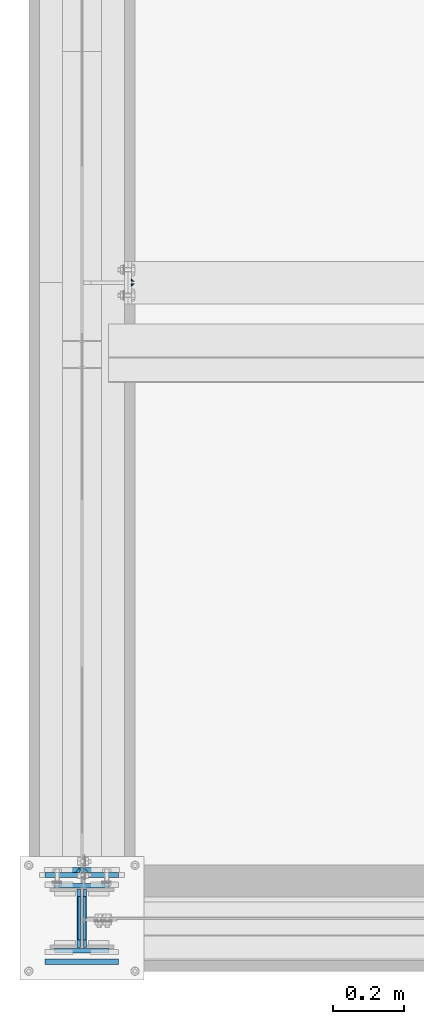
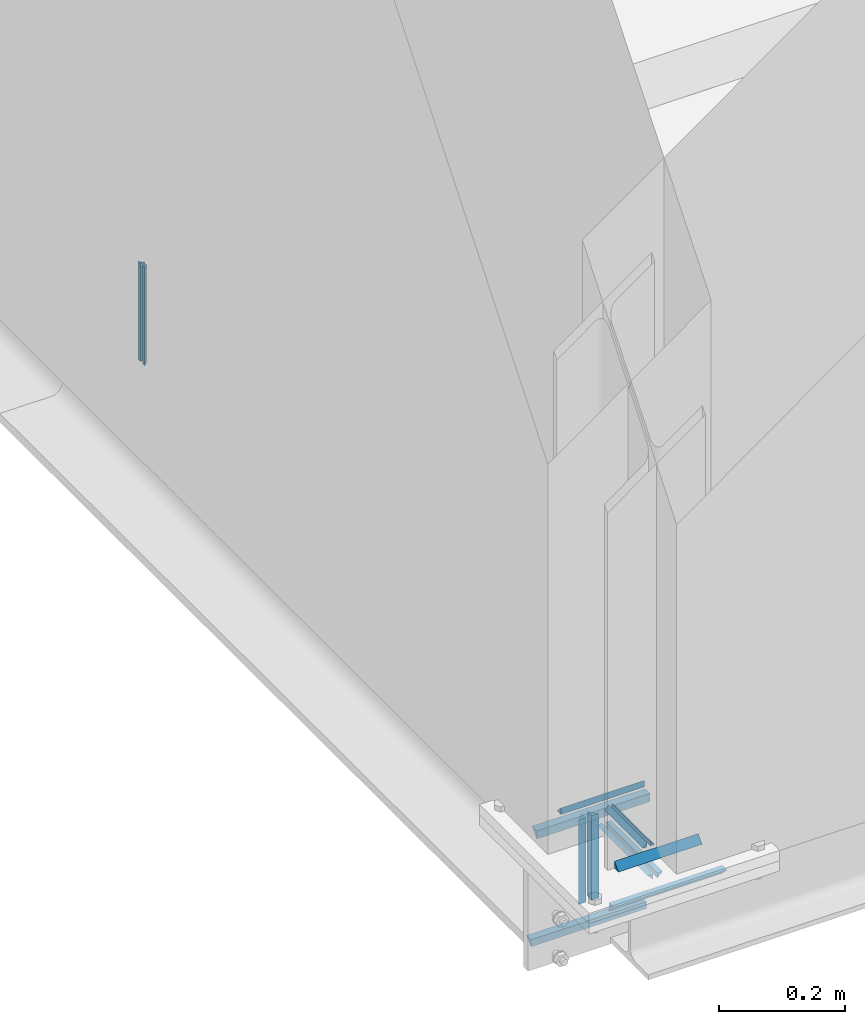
# One storey, part 8 of 66: 21 fasteners.
"""IFC4 building model written with IfcOpenShell, lengths in metres."""

from ifc_helpers import new_model, si_unit, frame, origin_with_axes, place, context, project, spatial, polyline, outline, extrude, type_object, element, save


model = new_model("IFC4")

# Units and contexts
model_context = context("Model", 3, precision=1e-05, world=origin_with_axes())
ifc_project = project(units=[si_unit("LENGTHUNIT", "METRE"), si_unit("AREAUNIT", "SQUARE_METRE"), si_unit("VOLUMEUNIT", "CUBIC_METRE"), si_unit("MASSUNIT", "GRAM", prefix="KILO"), si_unit("TIMEUNIT", "SECOND"), si_unit("PLANEANGLEUNIT", "RADIAN"), si_unit("SOLIDANGLEUNIT", "STERADIAN"), si_unit("THERMODYNAMICTEMPERATUREUNIT", "DEGREE_CELSIUS")], contexts=[model_context])

# Site, building, storey
placement_1 = place(None, origin_with_axes())
site = spatial("IfcSite", under=ifc_project, at=placement_1, Name="Italia", CompositionType="ELEMENT")
building = spatial("IfcBuilding", under=site, at=placement_1, Name="Uffici", CompositionType="ELEMENT")
storey_placement = place(None, frame((0.0, 0.0, 3.299999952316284), z_axis=(0.0, 0.0, 1.0), x_axis=(1.0, 0.0, 0.0)))
storey = spatial("IfcBuildingStorey", under=building, at=storey_placement, Name="Storey 1", CompositionType="ELEMENT", Elevation=3.299999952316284)

# Fasteners
fastener_type_1 = type_object("IfcFastenerType", Name="Collegamento -001_-002", PredefinedType="WELD")
placement_2 = place(placement_1, origin_with_axes())
fastener_1_placement = place(placement_2, origin_with_axes())
element("IfcFastener", 1, at=fastener_1_placement, inside=storey, type_object=fastener_type_1, Name="Collegamento -001_-002", context=model_context, shape_type="SweptSolid", body=[
    extrude(outline(polyline([(0.0, 0.0), (0.00792813, 0.00817336), (0.00792813, 0.0), (0.0, 0.0)])), frame((0.13995, 1.78569, 3.27525), z_axis=(0.0, 0.0, -1.0), x_axis=(0.0, 1.0, 0.0)), (0.0, 0.0, 1.0), 0.1905),
])
fastener_type_2 = type_object("IfcFastenerType", Name="Collegamento -001_-002", PredefinedType="WELD")
fastener_2_placement = place(placement_2, origin_with_axes())
element("IfcFastener", 2, at=fastener_2_placement, inside=storey, type_object=fastener_type_2, Name="Collegamento -001_-002", context=model_context, shape_type="SweptSolid", body=[
    extrude(outline(polyline([(0.0, 0.0), (-0.00792813, -0.00817336), (-0.00792813, 0.0), (0.0, 0.0)])), frame((0.13995, 1.80764, 3.08475), z_axis=(0.0, 0.0, 1.0), x_axis=(0.0, 1.0, 0.0)), (0.0, 0.0, 1.0), 0.1905),
])
fastener_type_3 = type_object("IfcFastenerType", Name="Collegamento -001_-002", PredefinedType="WELD")
fastener_3_placement = place(placement_2, origin_with_axes())
element("IfcFastener", 3, at=fastener_3_placement, inside=storey, type_object=fastener_type_3, Name="Collegamento -001_-002", context=model_context, shape_type="SweptSolid", body=[
    extrude(outline(polyline([(0.0, 0.0), (0.00792813, 0.00817336), (0.00792813, 0.0), (0.0, 0.0)])), frame((0.13995, 1.78569, 3.27525), z_axis=(0.0, 0.0, -1.0), x_axis=(0.0, 1.0, 0.0)), (0.0, 0.0, 1.0), 0.1905),
])
fastener_type_4 = type_object("IfcFastenerType", Name="Collegamento -001_-002", PredefinedType="WELD")
fastener_4_placement = place(placement_2, origin_with_axes())
element("IfcFastener", 4, at=fastener_4_placement, inside=storey, type_object=fastener_type_4, Name="Collegamento -001_-002", context=model_context, shape_type="SweptSolid", body=[
    extrude(outline(polyline([(0.0, 0.0), (-0.00792813, -0.00817336), (-0.00792813, 0.0), (0.0, 0.0)])), frame((0.13995, 1.80764, 3.08475), z_axis=(0.0, 0.0, 1.0), x_axis=(0.0, 1.0, 0.0)), (0.0, 0.0, 1.0), 0.1905),
])
fastener_type_5 = type_object("IfcFastenerType", Name="Collegamenti 0101_-001 0102_-002 0103_-003 0104_-004", PredefinedType="WELD")
fastener_5_placement = place(placement_2, origin_with_axes())
element("IfcFastener", 5, at=fastener_5_placement, inside=storey, type_object=fastener_type_5, Name="Collegamenti 0101_-001 0102_-002 0103_-003 0104_-004", context=model_context, shape_type="SweptSolid", body=[
    extrude(outline(polyline([(0.0, 0.0), (0.0141734, -0.0137482), (0.0, -0.0137482), (0.0, 0.0)])), frame((-0.0186982, 0.12995, 3.09795), z_axis=(0.0, 0.0, 1.0), x_axis=(0.0, 1.0, 0.0)), (0.0, 0.0, 1.0), 0.1641),
])
fastener_type_6 = type_object("IfcFastenerType", Name="Collegamenti 0101_-001 0102_-002 0103_-003 0104_-004", PredefinedType="WELD")
fastener_6_placement = place(placement_2, origin_with_axes())
element("IfcFastener", 6, at=fastener_6_placement, inside=storey, type_object=fastener_type_6, Name="Collegamenti 0101_-001 0102_-002 0103_-003 0104_-004", context=model_context, shape_type="SweptSolid", body=[
    extrude(outline(polyline([(0.0, 0.0), (0.0141734, -0.0137482), (0.0, -0.0137482), (0.0, 0.0)])), frame((0.0186982, 0.12995, 3.26205), z_axis=(0.0, 0.0, -1.0), x_axis=(0.0, 1.0, 0.0)), (0.0, 0.0, 1.0), 0.1641),
])
fastener_type_7 = type_object("IfcFastenerType", Name="Collegamenti 0101_-001 0102_-002 0103_-003 0104_-004", PredefinedType="WELD")
fastener_7_placement = place(placement_2, origin_with_axes())
element("IfcFastener", 7, at=fastener_7_placement, inside=storey, type_object=fastener_type_7, Name="Collegamenti 0101_-001 0102_-002 0103_-003 0104_-004", context=model_context, shape_type="SweptSolid", body=[
    extrude(outline(polyline([(0.0, 0.0), (-0.0141733, 0.0137482), (0.0, 0.0137482), (0.0, 0.0)])), frame((0.10605, 0.12995, 3.0463), z_axis=(-1.0, 0.0, 0.0), x_axis=(0.0, -1.0, 0.0)), (0.0, 0.0, 1.0), 0.2121),
])
fastener_type_8 = type_object("IfcFastenerType", Name="Collegamenti 0101_-001 0102_-002 0103_-003 0104_-004", PredefinedType="WELD")
fastener_8_placement = place(placement_2, origin_with_axes())
element("IfcFastener", 8, at=fastener_8_placement, inside=storey, type_object=fastener_type_8, Name="Collegamenti 0101_-001 0102_-002 0103_-003 0104_-004", context=model_context, shape_type="SweptSolid", body=[
    extrude(outline(polyline([(0.0, 0.0), (0.0141734, -0.0137482), (0.0, -0.0137482), (0.0, 0.0)])), frame((-0.0186982, 0.12995, 3.09795), z_axis=(0.0, 0.0, 1.0), x_axis=(0.0, 1.0, 0.0)), (0.0, 0.0, 1.0), 0.1641),
])
fastener_type_9 = type_object("IfcFastenerType", Name="Collegamenti 0101_-001 0102_-002 0103_-003 0104_-004", PredefinedType="WELD")
fastener_9_placement = place(placement_2, origin_with_axes())
element("IfcFastener", 9, at=fastener_9_placement, inside=storey, type_object=fastener_type_9, Name="Collegamenti 0101_-001 0102_-002 0103_-003 0104_-004", context=model_context, shape_type="SweptSolid", body=[
    extrude(outline(polyline([(0.0, 0.0), (0.0141734, -0.0137482), (0.0, -0.0137482), (0.0, 0.0)])), frame((0.0186982, 0.12995, 3.26205), z_axis=(0.0, 0.0, -1.0), x_axis=(0.0, 1.0, 0.0)), (0.0, 0.0, 1.0), 0.1641),
])
fastener_type_10 = type_object("IfcFastenerType", Name="Collegamenti 0101_0201 0102_0202 0103_0203 0104_0204 0105_0205", PredefinedType="WELD")
fastener_10_placement = place(placement_2, origin_with_axes())
element("IfcFastener", 10, at=fastener_10_placement, inside=storey, type_object=fastener_type_10, Name="Collegamenti 0101_0201 0102_0202 0103_0203 0104_0204 0105_0205", context=model_context, shape_type="SweptSolid", body=[
    extrude(outline(polyline([(0.0, 0.0), (0.0127782, 0.0131733), (0.0127782, 0.0), (0.0, 0.0)])), frame((0.07705, 0.0982282, 3.31995), z_axis=(-1.0, 0.0, 0.0), x_axis=(0.0, -1.0, 0.0)), (0.0, 0.0, 1.0), 0.1541),
])
fastener_type_11 = type_object("IfcFastenerType", Name="Collegamenti 0101_0201 0102_0202 0103_0203 0104_0204 0105_0205", PredefinedType="WELD")
fastener_11_placement = place(placement_2, origin_with_axes())
element("IfcFastener", 11, at=fastener_11_placement, inside=storey, type_object=fastener_type_11, Name="Collegamenti 0101_0201 0102_0202 0103_0203 0104_0204 0105_0205", context=model_context, shape_type="SweptSolid", body=[
    extrude(outline(polyline([(0.0, 0.0), (0.0127782, 0.0131733), (0.0127782, 0.0), (0.0, 0.0)])), frame((-0.07705, -0.0982282, 3.31995), z_axis=(1.0, 0.0, 0.0), x_axis=(0.0, 1.0, 0.0)), (0.0, 0.0, 1.0), 0.1541),
])
fastener_type_12 = type_object("IfcFastenerType", Name="Collegamenti 0101_0201 0102_0202 0103_0203 0104_0204 0105_0205", PredefinedType="WELD")
fastener_12_placement = place(placement_2, origin_with_axes())
element("IfcFastener", 12, at=fastener_12_placement, inside=storey, type_object=fastener_type_12, Name="Collegamenti 0101_0201 0102_0202 0103_0203 0104_0204 0105_0205", context=model_context, shape_type="SweptSolid", body=[
    extrude(outline(polyline([(0.0, 0.0), (0.00792816, 0.00817347), (0.00792816, 0.0), (0.0, 0.0)])), frame((0.0108782, -0.06105, 3.31995), z_axis=(5.3392768e-08, 1.0, 0.0), x_axis=(-1.0, 5.3392768e-08, 0.0)), (0.0, 0.0, 1.0), 0.1221),
])
fastener_type_13 = type_object("IfcFastenerType", Name="Collegamenti 0101_0201 0102_0202 0103_0203 0104_0204 0105_0205", PredefinedType="WELD")
fastener_13_placement = place(placement_2, origin_with_axes())
element("IfcFastener", 13, at=fastener_13_placement, inside=storey, type_object=fastener_type_13, Name="Collegamenti 0101_0201 0102_0202 0103_0203 0104_0204 0105_0205", context=model_context, shape_type="SweptSolid", body=[
    extrude(outline(polyline([(0.0, 0.0), (0.00792816, 0.00817347), (0.00792816, 0.0), (0.0, 0.0)])), frame((-0.0108782, 0.06105, 3.31995), z_axis=(-5.3392771e-08, -1.0, 0.0), x_axis=(1.0, -5.3392771e-08, 0.0)), (0.0, 0.0, 1.0), 0.1221),
])
fastener_type_14 = type_object("IfcFastenerType", Name="Collegamenti 0101_0201 0102_0202 0103_0203 0104_0204 0105_0205", PredefinedType="WELD")
fastener_14_placement = place(placement_2, origin_with_axes())
element("IfcFastener", 14, at=fastener_14_placement, inside=storey, type_object=fastener_type_14, Name="Collegamenti 0101_0201 0102_0202 0103_0203 0104_0204 0105_0205", context=model_context, shape_type="SweptSolid", body=[
    extrude(outline(polyline([(0.0, 0.0), (0.0127782, 0.0131733), (0.0127782, 0.0), (0.0, 0.0)])), frame((0.07705, 0.0982282, 3.31995), z_axis=(-1.0, 0.0, 0.0), x_axis=(0.0, -1.0, 0.0)), (0.0, 0.0, 1.0), 0.1541),
])
fastener_type_15 = type_object("IfcFastenerType", Name="Collegamenti 0101_0201 0102_0202 0103_0203 0104_0204 0105_0205", PredefinedType="WELD")
fastener_15_placement = place(placement_2, origin_with_axes())
element("IfcFastener", 15, at=fastener_15_placement, inside=storey, type_object=fastener_type_15, Name="Collegamenti 0101_0201 0102_0202 0103_0203 0104_0204 0105_0205", context=model_context, shape_type="SweptSolid", body=[
    extrude(outline(polyline([(0.0, 0.0), (0.0127782, 0.0131733), (0.0127782, 0.0), (0.0, 0.0)])), frame((-0.07705, -0.0982282, 3.31995), z_axis=(1.0, 0.0, 0.0), x_axis=(0.0, 1.0, 0.0)), (0.0, 0.0, 1.0), 0.1541),
])
fastener_type_16 = type_object("IfcFastenerType", Name="Collegamenti 0101_0201 0102_0202 0103_0203 0104_0204 0105_0205", PredefinedType="WELD")
fastener_16_placement = place(placement_2, origin_with_axes())
element("IfcFastener", 16, at=fastener_16_placement, inside=storey, type_object=fastener_type_16, Name="Collegamenti 0101_0201 0102_0202 0103_0203 0104_0204 0105_0205", context=model_context, shape_type="SweptSolid", body=[
    extrude(outline(polyline([(0.0, 0.0), (0.00792816, 0.00817347), (0.00792816, 0.0), (0.0, 0.0)])), frame((0.0108782, -0.06105, 3.31995), z_axis=(5.3392768e-08, 1.0, 0.0), x_axis=(-1.0, 5.3392768e-08, 0.0)), (0.0, 0.0, 1.0), 0.1221),
])
fastener_type_17 = type_object("IfcFastenerType", Name="Collegamenti 0101_0201 0102_0202 0103_0203 0104_0204 0105_0205", PredefinedType="WELD")
fastener_17_placement = place(placement_2, origin_with_axes())
element("IfcFastener", 17, at=fastener_17_placement, inside=storey, type_object=fastener_type_17, Name="Collegamenti 0101_0201 0102_0202 0103_0203 0104_0204 0105_0205", context=model_context, shape_type="SweptSolid", body=[
    extrude(outline(polyline([(0.0, 0.0), (0.00792816, 0.00817347), (0.00792816, 0.0), (0.0, 0.0)])), frame((-0.0108782, 0.06105, 3.31995), z_axis=(-5.3392771e-08, -1.0, 0.0), x_axis=(1.0, -5.3392771e-08, 0.0)), (0.0, 0.0, 1.0), 0.1221),
])
fastener_type_18 = type_object("IfcFastenerType", Name="Collegamenti 0101_0201 0102_0202 0103_0203 0104_0204 0105_0205", PredefinedType="WELD")
fastener_18_placement = place(placement_2, origin_with_axes())
element("IfcFastener", 18, at=fastener_18_placement, inside=storey, type_object=fastener_type_18, Name="Collegamenti 0101_0201 0102_0202 0103_0203 0104_0204 0105_0205", context=model_context, shape_type="SweptSolid", body=[
    extrude(outline(polyline([(0.0, 0.0), (0.0153519, -0.0158267), (0.0153519, 0.0), (0.0, 0.0)])), frame((0.10405, 0.130402, 3.27995), z_axis=(-1.0, 0.0, 0.0), x_axis=(0.0, -1.0, 0.0)), (0.0, 0.0, 1.0), 0.2081),
])
fastener_type_19 = type_object("IfcFastenerType", Name="Collegamenti 0101_0201 0102_0202 0103_0203 0104_0204 0105_0205", PredefinedType="WELD")
fastener_19_placement = place(placement_2, origin_with_axes())
element("IfcFastener", 19, at=fastener_19_placement, inside=storey, type_object=fastener_type_19, Name="Collegamenti 0101_0201 0102_0202 0103_0203 0104_0204 0105_0205", context=model_context, shape_type="SweptSolid", body=[
    extrude(outline(polyline([(0.0, 0.0), (0.0153519, -0.0158267), (0.0153519, 0.0), (0.0, 0.0)])), frame((-0.10405, -0.130402, 3.27995), z_axis=(1.0, 0.0, 0.0), x_axis=(0.0, 1.0, 0.0)), (0.0, 0.0, 1.0), 0.2081),
])
fastener_type_20 = type_object("IfcFastenerType", Name="Collegamenti 0101_0201 0102_0202 0103_0203 0104_0204 0105_0205", PredefinedType="WELD")
fastener_20_placement = place(placement_2, origin_with_axes())
element("IfcFastener", 20, at=fastener_20_placement, inside=storey, type_object=fastener_type_20, Name="Collegamenti 0101_0201 0102_0202 0103_0203 0104_0204 0105_0205", context=model_context, shape_type="SweptSolid", body=[
    extrude(outline(polyline([(0.0, 0.0), (0.00953184, -0.00982666), (0.00953184, 0.0), (0.0, 0.0)])), frame((0.0133318, -0.08205, 3.27995), z_axis=(5.6753361e-08, 1.0, 0.0), x_axis=(-1.0, 5.6753361e-08, 0.0)), (0.0, 0.0, 1.0), 0.1641),
])
fastener_type_21 = type_object("IfcFastenerType", Name="Collegamenti 0101_0201 0102_0202 0103_0203 0104_0204 0105_0205", PredefinedType="WELD")
fastener_21_placement = place(placement_2, origin_with_axes())
element("IfcFastener", 21, at=fastener_21_placement, inside=storey, type_object=fastener_type_21, Name="Collegamenti 0101_0201 0102_0202 0103_0203 0104_0204 0105_0205", context=model_context, shape_type="SweptSolid", body=[
    extrude(outline(polyline([(0.0, 0.0), (0.00953184, -0.00982666), (0.00953184, 0.0), (0.0, 0.0)])), frame((-0.0133318, 0.08205, 3.27995), z_axis=(-5.6753361e-08, -1.0, 0.0), x_axis=(1.0, -5.6753361e-08, 0.0)), (0.0, 0.0, 1.0), 0.1641),
])

save(model, "model.ifc")
